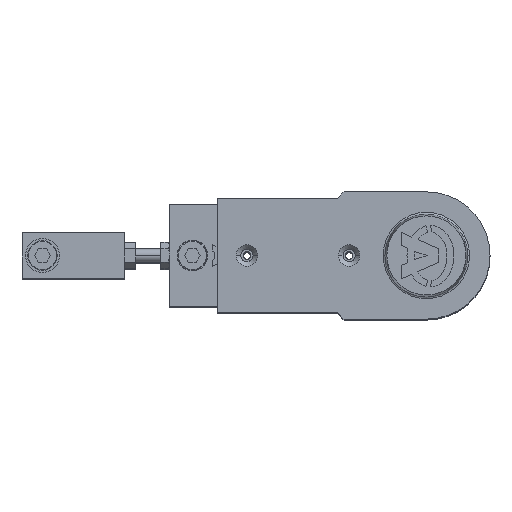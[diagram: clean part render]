
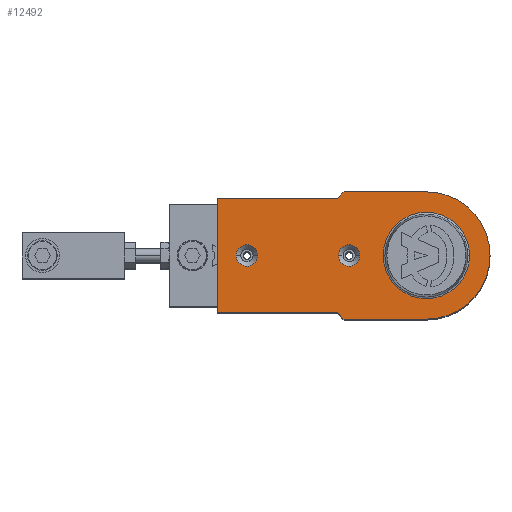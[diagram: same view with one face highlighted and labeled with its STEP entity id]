
A CAD part, top view. The second image highlights one B-rep face of the part: STEP entity #12492.
In plain terms, the highlighted planar face has unit normal (0, 0, 1).
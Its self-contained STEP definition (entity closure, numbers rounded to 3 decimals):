
#63 = CARTESIAN_POINT ( 'NONE',  ( 74.3, 0., 37. ) ) ;
#153 = ORIENTED_EDGE ( 'NONE', *, *, #2062, .T. ) ;
#244 = LINE ( 'NONE', #6891, #13070 ) ;
#596 = CARTESIAN_POINT ( 'NONE',  ( 92., 25.25, 37. ) ) ;
#830 = EDGE_CURVE ( 'NONE', #5678, #2576, #3193, .T. ) ;
#857 = CARTESIAN_POINT ( 'NONE',  ( 0., 0., 37. ) ) ;
#912 = DIRECTION ( 'NONE',  ( 1., 0., 0. ) ) ;
#1065 = AXIS2_PLACEMENT_3D ( 'NONE', #8307, #3203, #14534 ) ;
#1148 = EDGE_LOOP ( 'NONE', ( #10341, #4510 ) ) ;
#1264 = ORIENTED_EDGE ( 'NONE', *, *, #2014, .F. ) ;
#1274 = FACE_OUTER_BOUND ( 'NONE', #5637, .T. ) ;
#1504 = ORIENTED_EDGE ( 'NONE', *, *, #3814, .T. ) ;
#1567 = LINE ( 'NONE', #12115, #6683 ) ;
#1620 = DIRECTION ( 'NONE',  ( 0., 0., 1. ) ) ;
#1694 = CIRCLE ( 'NONE', #11677, 4.7 ) ;
#1841 = DIRECTION ( 'NONE',  ( 1., 0., 0. ) ) ;
#1944 = ORIENTED_EDGE ( 'NONE', *, *, #8493, .T. ) ;
#2014 = EDGE_CURVE ( 'NONE', #2576, #5678, #5254, .T. ) ;
#2062 = EDGE_CURVE ( 'NONE', #5870, #7180, #11044, .T. ) ;
#2068 = VERTEX_POINT ( 'NONE', #596 ) ;
#2100 = ORIENTED_EDGE ( 'NONE', *, *, #7355, .T. ) ;
#2205 = CARTESIAN_POINT ( 'NONE',  ( 34., 0., 37. ) ) ;
#2247 = LINE ( 'NONE', #9410, #14564 ) ;
#2379 = LINE ( 'NONE', #8972, #2555 ) ;
#2386 = VERTEX_POINT ( 'NONE', #5364 ) ;
#2497 = CARTESIAN_POINT ( 'NONE',  ( 0., 0., 37. ) ) ;
#2555 = VECTOR ( 'NONE', #5557, 1000. ) ;
#2576 = VERTEX_POINT ( 'NONE', #9613 ) ;
#2607 = EDGE_LOOP ( 'NONE', ( #1264, #9100 ) ) ;
#2882 = DIRECTION ( 'NONE',  ( 1., 0., 0. ) ) ;
#3069 = ORIENTED_EDGE ( 'NONE', *, *, #9432, .T. ) ;
#3118 = AXIS2_PLACEMENT_3D ( 'NONE', #2497, #5894, #8172 ) ;
#3140 = CARTESIAN_POINT ( 'NONE',  ( 18.996, 0., 37. ) ) ;
#3193 = CIRCLE ( 'NONE', #1065, 4.7 ) ;
#3203 = DIRECTION ( 'NONE',  ( 0., 0., 1. ) ) ;
#3260 = FACE_BOUND ( 'NONE', #2607, .T. ) ;
#3334 = DIRECTION ( 'NONE',  ( 0., 0., -1. ) ) ;
#3814 = EDGE_CURVE ( 'NONE', #9167, #4172, #8292, .T. ) ;
#3816 = CARTESIAN_POINT ( 'NONE',  ( 29.3, 0., 37. ) ) ;
#3935 = CARTESIAN_POINT ( 'NONE',  ( 0., 0., 37. ) ) ;
#3961 = CARTESIAN_POINT ( 'NONE',  ( 0., 28., 37. ) ) ;
#4060 = CIRCLE ( 'NONE', #12052, 4.7 ) ;
#4172 = VERTEX_POINT ( 'NONE', #11296 ) ;
#4181 = VERTEX_POINT ( 'NONE', #5762 ) ;
#4226 = DIRECTION ( 'NONE',  ( 1., 0., 0. ) ) ;
#4466 = CARTESIAN_POINT ( 'NONE',  ( 0., 28., 37. ) ) ;
#4510 = ORIENTED_EDGE ( 'NONE', *, *, #6177, .F. ) ;
#4550 = EDGE_CURVE ( 'NONE', #5915, #8473, #10807, .T. ) ;
#4861 = CARTESIAN_POINT ( 'NONE',  ( 0., 0., 37. ) ) ;
#4880 = CARTESIAN_POINT ( 'NONE',  ( -28., 0., 37. ) ) ;
#4881 = LINE ( 'NONE', #6049, #7170 ) ;
#4905 = EDGE_LOOP ( 'NONE', ( #9862, #13417 ) ) ;
#4956 = DIRECTION ( 'NONE',  ( 0., 1., 0. ) ) ;
#5254 = CIRCLE ( 'NONE', #7714, 4.7 ) ;
#5364 = CARTESIAN_POINT ( 'NONE',  ( 38.7, 0., 37. ) ) ;
#5392 = CARTESIAN_POINT ( 'NONE',  ( 0., -28., 37. ) ) ;
#5526 = FACE_BOUND ( 'NONE', #1148, .T. ) ;
#5557 = DIRECTION ( 'NONE',  ( -0.707, 0.707, 0. ) ) ;
#5632 = AXIS2_PLACEMENT_3D ( 'NONE', #857, #9693, #6334 ) ;
#5637 = EDGE_LOOP ( 'NONE', ( #11501, #153, #11340, #1504, #1944, #3069, #2100, #5733, #10134 ) ) ;
#5678 = VERTEX_POINT ( 'NONE', #63 ) ;
#5733 = ORIENTED_EDGE ( 'NONE', *, *, #8289, .T. ) ;
#5762 = CARTESIAN_POINT ( 'NONE',  ( 39., 25.25, 37. ) ) ;
#5789 = EDGE_CURVE ( 'NONE', #7180, #9167, #6884, .T. ) ;
#5870 = VERTEX_POINT ( 'NONE', #7183 ) ;
#5894 = DIRECTION ( 'NONE',  ( 0., 0., -1. ) ) ;
#5915 = VERTEX_POINT ( 'NONE', #11715 ) ;
#5995 = DIRECTION ( 'NONE',  ( 0., 0., 1. ) ) ;
#6049 = CARTESIAN_POINT ( 'NONE',  ( 36.25, -28., 37. ) ) ;
#6177 = EDGE_CURVE ( 'NONE', #11919, #2386, #4060, .T. ) ;
#6334 = DIRECTION ( 'NONE',  ( 1., 0., 0. ) ) ;
#6454 = EDGE_CURVE ( 'NONE', #2068, #4181, #1567, .T. ) ;
#6661 = CARTESIAN_POINT ( 'NONE',  ( 0., 0., 37. ) ) ;
#6677 = DIRECTION ( 'NONE',  ( 0., 0., 1. ) ) ;
#6683 = VECTOR ( 'NONE', #14387, 1000. ) ;
#6884 = CIRCLE ( 'NONE', #13566, 28. ) ;
#6891 = CARTESIAN_POINT ( 'NONE',  ( 92., -25.25, 37. ) ) ;
#6939 = VERTEX_POINT ( 'NONE', #13744 ) ;
#7170 = VECTOR ( 'NONE', #9301, 1000. ) ;
#7180 = VERTEX_POINT ( 'NONE', #4466 ) ;
#7182 = VECTOR ( 'NONE', #4226, 1000. ) ;
#7183 = CARTESIAN_POINT ( 'NONE',  ( 36.25, 28., 37. ) ) ;
#7275 = CARTESIAN_POINT ( 'NONE',  ( 34., 0., 37. ) ) ;
#7355 = EDGE_CURVE ( 'NONE', #13658, #11688, #244, .T. ) ;
#7508 = CIRCLE ( 'NONE', #12538, 18.996 ) ;
#7714 = AXIS2_PLACEMENT_3D ( 'NONE', #12873, #1620, #2882 ) ;
#7766 = DIRECTION ( 'NONE',  ( 1., 0., 0. ) ) ;
#8172 = DIRECTION ( 'NONE',  ( 1., 0., 0. ) ) ;
#8289 = EDGE_CURVE ( 'NONE', #11688, #2068, #2247, .T. ) ;
#8292 = CIRCLE ( 'NONE', #8865, 28. ) ;
#8307 = CARTESIAN_POINT ( 'NONE',  ( 79., 0., 37. ) ) ;
#8437 = DIRECTION ( 'NONE',  ( -1., 0., 0. ) ) ;
#8438 = EDGE_CURVE ( 'NONE', #2386, #11919, #1694, .T. ) ;
#8473 = VERTEX_POINT ( 'NONE', #3140 ) ;
#8493 = EDGE_CURVE ( 'NONE', #4172, #6939, #14022, .T. ) ;
#8726 = EDGE_CURVE ( 'NONE', #4181, #5870, #2379, .T. ) ;
#8803 = EDGE_CURVE ( 'NONE', #8473, #5915, #7508, .T. ) ;
#8865 = AXIS2_PLACEMENT_3D ( 'NONE', #3935, #14141, #1841 ) ;
#8963 = VECTOR ( 'NONE', #8437, 1000. ) ;
#8972 = CARTESIAN_POINT ( 'NONE',  ( 36.25, 28., 37. ) ) ;
#9020 = CARTESIAN_POINT ( 'NONE',  ( 92., -25.25, 37. ) ) ;
#9100 = ORIENTED_EDGE ( 'NONE', *, *, #830, .F. ) ;
#9167 = VERTEX_POINT ( 'NONE', #4880 ) ;
#9301 = DIRECTION ( 'NONE',  ( 0.707, 0.707, 0. ) ) ;
#9410 = CARTESIAN_POINT ( 'NONE',  ( 92., 25.25, 37. ) ) ;
#9432 = EDGE_CURVE ( 'NONE', #6939, #13658, #4881, .T. ) ;
#9613 = CARTESIAN_POINT ( 'NONE',  ( 83.7, 0., 37. ) ) ;
#9638 = DIRECTION ( 'NONE',  ( 0., 0., 1. ) ) ;
#9693 = DIRECTION ( 'NONE',  ( 0., 0., 1. ) ) ;
#9862 = ORIENTED_EDGE ( 'NONE', *, *, #8803, .T. ) ;
#9878 = DIRECTION ( 'NONE',  ( 1., 0., 0. ) ) ;
#10134 = ORIENTED_EDGE ( 'NONE', *, *, #6454, .T. ) ;
#10265 = FACE_BOUND ( 'NONE', #4905, .T. ) ;
#10341 = ORIENTED_EDGE ( 'NONE', *, *, #8438, .F. ) ;
#10807 = CIRCLE ( 'NONE', #3118, 18.996 ) ;
#10935 = PLANE ( 'NONE',  #5632 ) ;
#11044 = LINE ( 'NONE', #3961, #8963 ) ;
#11296 = CARTESIAN_POINT ( 'NONE',  ( 0., -28., 37. ) ) ;
#11340 = ORIENTED_EDGE ( 'NONE', *, *, #5789, .T. ) ;
#11501 = ORIENTED_EDGE ( 'NONE', *, *, #8726, .T. ) ;
#11677 = AXIS2_PLACEMENT_3D ( 'NONE', #7275, #9638, #9878 ) ;
#11688 = VERTEX_POINT ( 'NONE', #9020 ) ;
#11715 = CARTESIAN_POINT ( 'NONE',  ( -18.996, 0., 37. ) ) ;
#11919 = VERTEX_POINT ( 'NONE', #3816 ) ;
#12052 = AXIS2_PLACEMENT_3D ( 'NONE', #2205, #6677, #912 ) ;
#12115 = CARTESIAN_POINT ( 'NONE',  ( 39., 25.25, 37. ) ) ;
#12492 = ADVANCED_FACE ( 'NONE', ( #10265, #5526, #3260, #1274 ), #10935, .T. ) ;
#12538 = AXIS2_PLACEMENT_3D ( 'NONE', #6661, #3334, #7766 ) ;
#12873 = CARTESIAN_POINT ( 'NONE',  ( 79., 0., 37. ) ) ;
#13070 = VECTOR ( 'NONE', #13553, 1000. ) ;
#13417 = ORIENTED_EDGE ( 'NONE', *, *, #4550, .T. ) ;
#13553 = DIRECTION ( 'NONE',  ( 1., 0., 0. ) ) ;
#13566 = AXIS2_PLACEMENT_3D ( 'NONE', #4861, #5995, #13844 ) ;
#13658 = VERTEX_POINT ( 'NONE', #13806 ) ;
#13744 = CARTESIAN_POINT ( 'NONE',  ( 36.25, -28., 37. ) ) ;
#13806 = CARTESIAN_POINT ( 'NONE',  ( 39., -25.25, 37. ) ) ;
#13844 = DIRECTION ( 'NONE',  ( 1., 0., 0. ) ) ;
#14022 = LINE ( 'NONE', #5392, #7182 ) ;
#14141 = DIRECTION ( 'NONE',  ( 0., 0., 1. ) ) ;
#14387 = DIRECTION ( 'NONE',  ( -1., 0., 0. ) ) ;
#14534 = DIRECTION ( 'NONE',  ( 1., 0., 0. ) ) ;
#14564 = VECTOR ( 'NONE', #4956, 1000. ) ;
